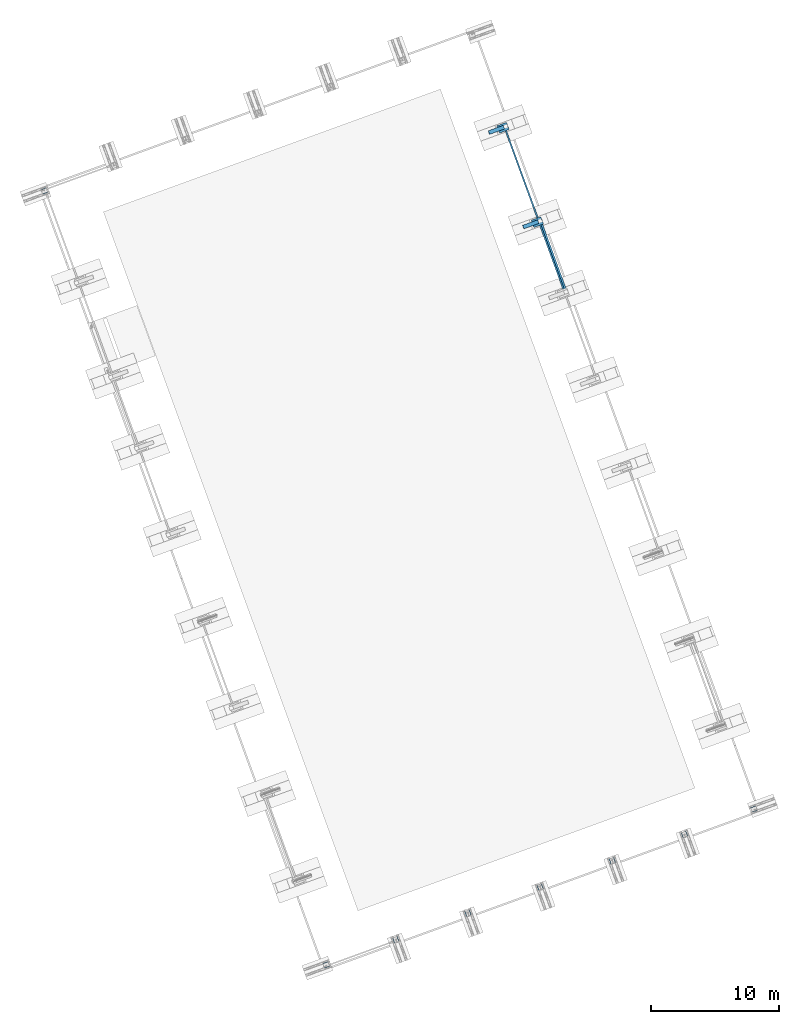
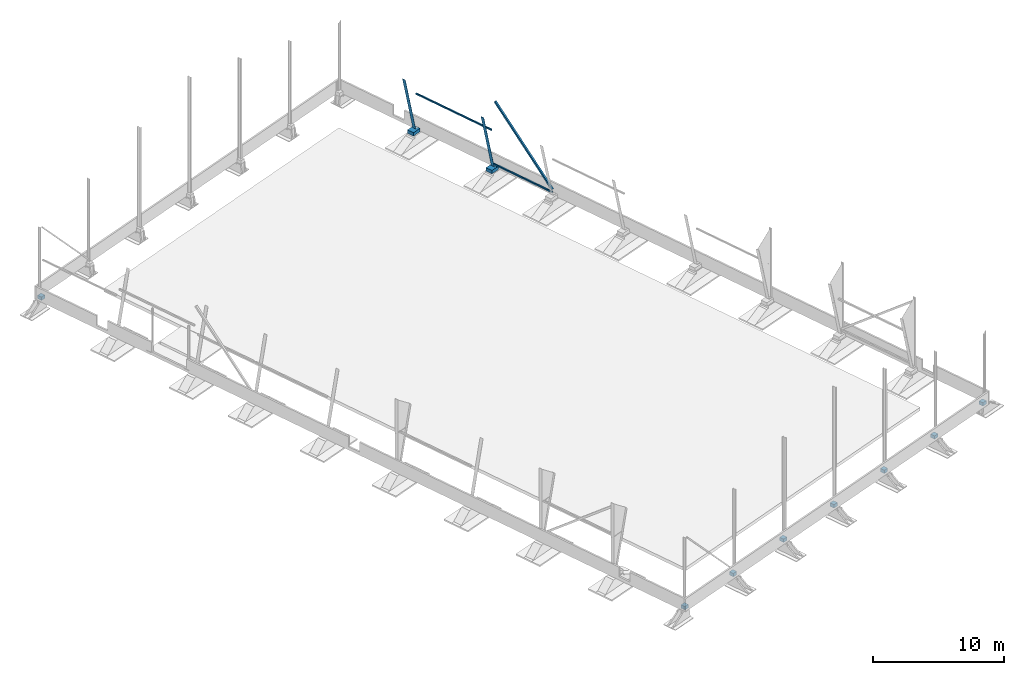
# One storey, part 9 of 20: 12 beams, 3 members, 15 elements without a shape of their own.
"""IFC4 building model written with IfcOpenShell, lengths in millimetres."""

from ifc_helpers import new_model, si_unit, direction, frame, origin_with_axes, place, context, subcontext, project, spatial, line, indexed_curve, outline, extrude, material, element, aggregate, save


model = new_model("IFC4")

# Units and contexts
model_context = context("Model", 3, precision=0.2, world=frame((203566.813, 116264.779, 0.0), z_axis=(0.0, 0.0, 1.0), x_axis=(1.0, 0.0, 0.0)), true_north=direction((-0.9396138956, -0.3422363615)))
body_context = subcontext(model_context, "Body", "Model", "MODEL_VIEW")
ifc_project = project(units=[si_unit("LENGTHUNIT", "METRE", prefix="MILLI"), si_unit("AREAUNIT", "SQUARE_METRE"), si_unit("VOLUMEUNIT", "CUBIC_METRE"), si_unit("MASSUNIT", "GRAM", prefix="KILO"), si_unit("TIMEUNIT", "SECOND"), si_unit("PLANEANGLEUNIT", "RADIAN"), si_unit("SOLIDANGLEUNIT", "STERADIAN"), si_unit("THERMODYNAMICTEMPERATUREUNIT", "DEGREE_CELSIUS"), si_unit("LUMINOUSINTENSITYUNIT", "LUMEN")], contexts=[model_context])

# Site, building, storey
site_placement = place(None, origin_with_axes())
site = spatial("IfcSite", under=ifc_project, at=site_placement, Name="Nobelprojektet", CompositionType="ELEMENT")
building_placement = place(site_placement, origin_with_axes())
building = spatial("IfcBuilding", under=site, at=building_placement, Name="Hall B", CompositionType="ELEMENT")
storey_placement = place(building_placement, frame((0.0, 0.0, 1000.0), z_axis=(0.0, 0.0, 1.0), x_axis=(1.0, 0.0, 0.0)))
storey = spatial("IfcBuildingStorey", under=building, at=storey_placement, Name="Plan_1", CompositionType="ELEMENT", Elevation=1000.0)

# Assembly, beam
assembly_1_placement = place(storey_placement, frame((167191.72591, 171427.04048, 135487.51505), z_axis=(0.0, 0.0, -1.0), x_axis=(-0.3422371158, 0.9396136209, 1.3e-09)))
assembly_1 = element("IfcElementAssembly", 1, at=assembly_1_placement, inside=storey, Name="BEF. STOMME", PredefinedType="NOTDEFINED")
ifc_material_1 = material(Name="S355J2", Category="STEEL")
beam_1_placement = place(assembly_1_placement, origin_with_axes())
beam_1 = element("IfcBeam", 2, at=beam_1_placement, material=ifc_material_1, Name="BEF. STOMME", PredefinedType="NOTDEFINED", context=body_context, shape_type="SolidModel", body=[
    extrude(outline(indexed_curve([(-60.0, -60.0), (60.0, -60.0), (60.0, 60.0), (-60.0, 60.0)], segments=[line(1, 2, 3, 4, 1)]), holes=[indexed_curve([(-55.0, -55.0), (-55.0, 55.0), (55.0, 55.0), (55.0, -55.0)], segments=[line(1, 2, 3, 4, 1)])]), frame((0.0, 0.0, 0.0), z_axis=(-1.0, 0.0, 0.0), x_axis=(0.0, 0.0, 1.0)), (0.0, 0.0, -1.0), 7549.99),
])
aggregate(assembly_1, [beam_1])

assembly_2_placement = place(storey_placement, frame((169271.15862, 165717.94812, 132405.00505), z_axis=(0.0, 0.0, -1.0), x_axis=(-0.3422371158, 0.9396136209, 1.3e-09)))
assembly_2 = element("IfcElementAssembly", 3, at=assembly_2_placement, inside=storey, Name="BEF. STOMME", PredefinedType="NOTDEFINED")
beam_2_placement = place(assembly_2_placement, origin_with_axes())
beam_2 = element("IfcBeam", 4, at=beam_2_placement, material=ifc_material_1, Name="BEF. STOMME", PredefinedType="NOTDEFINED", context=body_context, shape_type="SolidModel", body=[
    extrude(outline(indexed_curve([(-60.0, -60.0), (60.0, -60.0), (60.0, 60.0), (-60.0, 60.0)], segments=[line(1, 2, 3, 4, 1)]), holes=[indexed_curve([(-55.0, -55.0), (-55.0, 55.0), (55.0, 55.0), (55.0, -55.0)], segments=[line(1, 2, 3, 4, 1)])]), frame((0.0, 0.0, 0.0), z_axis=(-1.0, 0.0, 0.0), x_axis=(0.0, 0.0, 1.0)), (0.0, 0.0, -1.0), 5896.0),
])
aggregate(assembly_2, [beam_2])

# Assembly, member
assembly_3_placement = place(storey_placement, frame((167391.32019, 171252.59563, 138202.30505), z_axis=(0.2402452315, -0.6595944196, 0.7121919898), x_axis=(0.243738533, -0.6691852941, -0.7019847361)))
assembly_3 = element("IfcElementAssembly", 5, at=assembly_3_placement, inside=storey, Name="BEF. STOMME", PredefinedType="NOTDEFINED")
member_1_placement = place(assembly_3_placement, origin_with_axes())
member_1 = element("IfcMember", 6, at=member_1_placement, material=ifc_material_1, Name="BEF. STOMME", PredefinedType="NOTDEFINED", context=body_context, shape_type="SolidModel", body=[
    extrude(outline(indexed_curve([(-80.0, -80.0), (80.0, -80.0), (80.0, 80.0), (-80.0, 80.0)], segments=[line(1, 2, 3, 4, 1)]), holes=[indexed_curve([(-74.0, -74.0), (-74.0, 74.0), (74.0, 74.0), (74.0, -74.0)], segments=[line(1, 2, 3, 4, 1)])]), frame((0.0, 0.0, 0.0), z_axis=(-1.0, 0.0, 0.0), x_axis=(0.0, 0.0, 1.0)), (0.0, 0.0, -1.0), 8057.99572),
])
aggregate(assembly_3, [member_1])

# Assembly, beam
assembly_4_placement = place(storey_placement, frame((164068.76642, 178452.48732, 132024.99996), z_axis=(0.3422371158, -0.9396136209, 1.3e-09), x_axis=(0.9396136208, 0.3422371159, 0.0)))
assembly_4 = element("IfcElementAssembly", 7, at=assembly_4_placement, inside=storey, Name="BALK", PredefinedType="NOTDEFINED")
ifc_material_2 = material(Name="C25/30", Category="CONCRETE")
beam_3_placement = place(assembly_4_placement, origin_with_axes())
beam_3 = element("IfcBeam", 8, at=beam_3_placement, material=ifc_material_2, Name="BALK", PredefinedType="NOTDEFINED", context=body_context, shape_type="SolidModel", body=[
    extrude(outline(indexed_curve([(-300.0, -155.0), (300.0, -155.0), (300.0, 155.0), (-300.0, 155.0)], segments=[line(1, 2, 3, 4, 1)])), frame((0.0, 0.0, 0.0), z_axis=(-1.0, 0.0, 0.0), x_axis=(0.0, 0.0, 1.0)), (0.0, 0.0, -1.0), 800.0),
])
aggregate(assembly_4, [beam_3])

assembly_5_placement = place(storey_placement, frame((166755.32778, 171076.52039, 132024.99996), z_axis=(0.3422371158, -0.9396136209, 1.3e-09), x_axis=(0.9396136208, 0.3422371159, 0.0)))
assembly_5 = element("IfcElementAssembly", 9, at=assembly_5_placement, inside=storey, Name="BALK", PredefinedType="NOTDEFINED")
beam_4_placement = place(assembly_5_placement, origin_with_axes())
beam_4 = element("IfcBeam", 10, at=beam_4_placement, material=ifc_material_2, Name="BALK", PredefinedType="NOTDEFINED", context=body_context, shape_type="SolidModel", body=[
    extrude(outline(indexed_curve([(-300.0, -155.0), (300.0, -155.0), (300.0, 155.0), (-300.0, 155.0)], segments=[line(1, 2, 3, 4, 1)])), frame((0.0, 0.0, 0.0), z_axis=(-1.0, 0.0, 0.0), x_axis=(0.0, 0.0, 1.0)), (0.0, 0.0, -1.0), 800.0),
])
aggregate(assembly_5, [beam_4])

assembly_6_placement = place(storey_placement, frame((156003.48198, 115362.48278, 132024.99996), z_axis=(0.9396136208, 0.3422371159, 0.0), x_axis=(0.3422371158, -0.9396136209, 1.3e-09)))
assembly_6 = element("IfcElementAssembly", 11, at=assembly_6_placement, inside=storey, Name="BEFINTLIG", PredefinedType="NOTDEFINED")
beam_5_placement = place(assembly_6_placement, origin_with_axes())
beam_5 = element("IfcBeam", 12, at=beam_5_placement, material=ifc_material_2, Name="BEFINTLIG", PredefinedType="NOTDEFINED", context=body_context, shape_type="SolidModel", body=[
    extrude(outline(indexed_curve([(-200.0, -155.0), (200.0, -155.0), (200.0, 155.0), (-200.0, 155.0)], segments=[line(1, 2, 3, 4, 1)])), frame((0.0, 0.0, 0.0), z_axis=(-1.0, 0.0, 0.0), x_axis=(0.0, 0.0, 1.0)), (0.0, 0.0, -1.0), 400.0),
])
aggregate(assembly_6, [beam_5])

assembly_7_placement = place(storey_placement, frame((161641.1637, 117415.90548, 132024.99996), z_axis=(0.9396136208, 0.3422371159, 0.0), x_axis=(0.3422371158, -0.9396136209, 1.3e-09)))
assembly_7 = element("IfcElementAssembly", 13, at=assembly_7_placement, inside=storey, Name="BEFINTLIG", PredefinedType="NOTDEFINED")
beam_6_placement = place(assembly_7_placement, origin_with_axes())
beam_6 = element("IfcBeam", 14, at=beam_6_placement, material=ifc_material_2, Name="BEFINTLIG", PredefinedType="NOTDEFINED", context=body_context, shape_type="SolidModel", body=[
    extrude(outline(indexed_curve([(-200.0, -155.0), (200.0, -155.0), (200.0, 155.0), (-200.0, 155.0)], segments=[line(1, 2, 3, 4, 1)])), frame((0.0, 0.0, 0.0), z_axis=(-1.0, 0.0, 0.0), x_axis=(0.0, 0.0, 1.0)), (0.0, 0.0, -1.0), 400.0),
])
aggregate(assembly_7, [beam_6])

assembly_8_placement = place(storey_placement, frame((167278.84543, 119469.32817, 132024.99996), z_axis=(0.9396136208, 0.3422371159, 0.0), x_axis=(0.3422371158, -0.9396136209, 1.3e-09)))
assembly_8 = element("IfcElementAssembly", 15, at=assembly_8_placement, inside=storey, Name="BEFINTLIG", PredefinedType="NOTDEFINED")
beam_7_placement = place(assembly_8_placement, origin_with_axes())
beam_7 = element("IfcBeam", 16, at=beam_7_placement, material=ifc_material_2, Name="BEFINTLIG", PredefinedType="NOTDEFINED", context=body_context, shape_type="SolidModel", body=[
    extrude(outline(indexed_curve([(-200.0, -155.0), (200.0, -155.0), (200.0, 155.0), (-200.0, 155.0)], segments=[line(1, 2, 3, 4, 1)])), frame((0.0, 0.0, 0.0), z_axis=(-1.0, 0.0, 0.0), x_axis=(0.0, 0.0, 1.0)), (0.0, 0.0, -1.0), 400.0),
])
aggregate(assembly_8, [beam_7])

assembly_9_placement = place(storey_placement, frame((172916.52715, 121522.75087, 132024.99996), z_axis=(0.9396136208, 0.3422371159, 0.0), x_axis=(0.3422371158, -0.9396136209, 1.3e-09)))
assembly_9 = element("IfcElementAssembly", 17, at=assembly_9_placement, inside=storey, Name="BEFINTLIG", PredefinedType="NOTDEFINED")
beam_8_placement = place(assembly_9_placement, origin_with_axes())
beam_8 = element("IfcBeam", 18, at=beam_8_placement, material=ifc_material_2, Name="BEFINTLIG", PredefinedType="NOTDEFINED", context=body_context, shape_type="SolidModel", body=[
    extrude(outline(indexed_curve([(-200.0, -155.0), (200.0, -155.0), (200.0, 155.0), (-200.0, 155.0)], segments=[line(1, 2, 3, 4, 1)])), frame((0.0, 0.0, 0.0), z_axis=(-1.0, 0.0, 0.0), x_axis=(0.0, 0.0, 1.0)), (0.0, 0.0, -1.0), 400.0),
])
aggregate(assembly_9, [beam_8])

assembly_10_placement = place(storey_placement, frame((178554.20888, 123576.17356, 132024.99996), z_axis=(0.9396136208, 0.3422371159, 0.0), x_axis=(0.3422371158, -0.9396136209, 1.3e-09)))
assembly_10 = element("IfcElementAssembly", 19, at=assembly_10_placement, inside=storey, Name="BEFINTLIG", PredefinedType="NOTDEFINED")
beam_9_placement = place(assembly_10_placement, origin_with_axes())
beam_9 = element("IfcBeam", 20, at=beam_9_placement, material=ifc_material_2, Name="BEFINTLIG", PredefinedType="NOTDEFINED", context=body_context, shape_type="SolidModel", body=[
    extrude(outline(indexed_curve([(-200.0, -155.0), (200.0, -155.0), (200.0, 155.0), (-200.0, 155.0)], segments=[line(1, 2, 3, 4, 1)])), frame((0.0, 0.0, 0.0), z_axis=(-1.0, 0.0, 0.0), x_axis=(0.0, 0.0, 1.0)), (0.0, 0.0, -1.0), 400.0),
])
aggregate(assembly_10, [beam_9])

assembly_11_placement = place(storey_placement, frame((128818.75383, 173723.028, 132024.99996), z_axis=(0.3422371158, -0.9396136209, 1.3e-09), x_axis=(-0.9396136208, -0.3422371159, 0.0)))
assembly_11 = element("IfcElementAssembly", 21, at=assembly_11_placement, inside=storey, Name="BEFINTLIG", PredefinedType="NOTDEFINED")
beam_10_placement = place(assembly_11_placement, origin_with_axes())
beam_10 = element("IfcBeam", 22, at=beam_10_placement, material=ifc_material_2, Name="BEFINTLIG", PredefinedType="NOTDEFINED", context=body_context, shape_type="SolidModel", body=[
    extrude(outline(indexed_curve([(-200.0, -155.0), (200.0, -155.0), (200.0, 155.0), (-200.0, 155.0)], segments=[line(1, 2, 3, 4, 1)])), frame((0.0, 0.0, 0.0), z_axis=(-1.0, 0.0, 0.0), x_axis=(0.0, 0.0, 1.0)), (0.0, 0.0, -1.0), 400.0),
])
aggregate(assembly_11, [beam_10])

assembly_12_placement = place(storey_placement, frame((150838.28987, 113268.28764, 132024.99996), z_axis=(0.3422371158, -0.9396136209, 1.3e-09), x_axis=(-0.9396136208, -0.3422371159, 0.0)))
assembly_12 = element("IfcElementAssembly", 23, at=assembly_12_placement, inside=storey, Name="BEFINTLIG", PredefinedType="NOTDEFINED")
beam_11_placement = place(assembly_12_placement, origin_with_axes())
beam_11 = element("IfcBeam", 24, at=beam_11_placement, material=ifc_material_2, Name="BEFINTLIG", PredefinedType="NOTDEFINED", context=body_context, shape_type="SolidModel", body=[
    extrude(outline(indexed_curve([(-200.0, -155.0), (200.0, -155.0), (200.0, 155.0), (-200.0, 155.0)], segments=[line(1, 2, 3, 4, 1)])), frame((0.0, 0.0, 0.0), z_axis=(-1.0, 0.0, 0.0), x_axis=(0.0, 0.0, 1.0)), (0.0, 0.0, -1.0), 400.0),
])
aggregate(assembly_12, [beam_11])

assembly_13_placement = place(storey_placement, frame((183856.2964, 125294.49402, 132024.99996), z_axis=(-0.3422371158, 0.9396136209, 1.3e-09), x_axis=(0.9396136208, 0.3422371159, 0.0)))
assembly_13 = element("IfcElementAssembly", 25, at=assembly_13_placement, inside=storey, Name="BEFINTLIG", PredefinedType="NOTDEFINED")
beam_12_placement = place(assembly_13_placement, origin_with_axes())
beam_12 = element("IfcBeam", 26, at=beam_12_placement, material=ifc_material_2, Name="BEFINTLIG", PredefinedType="NOTDEFINED", context=body_context, shape_type="SolidModel", body=[
    extrude(outline(indexed_curve([(-200.0, -155.0), (200.0, -155.0), (200.0, 155.0), (-200.0, 155.0)], segments=[line(1, 2, 3, 4, 1)])), frame((0.0, 0.0, 0.0), z_axis=(-1.0, 0.0, 0.0), x_axis=(0.0, 0.0, 1.0)), (0.0, 0.0, -1.0), 400.0),
])
aggregate(assembly_13, [beam_12])

# Assembly, member
assembly_14_placement = place(storey_placement, frame((167193.71217, 171252.23515, 132198.26102), z_axis=(0.9144795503, 0.3330824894, 0.2297459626), x_axis=(-0.215872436, -0.078627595, 0.973250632)))
assembly_14 = element("IfcElementAssembly", 27, at=assembly_14_placement, inside=storey, Name="BEF. STOMME", PredefinedType="NOTDEFINED")
member_2_placement = place(assembly_14_placement, origin_with_axes())
member_2 = element("IfcMember", 28, at=member_2_placement, material=ifc_material_1, Name="BEF. STOMME", PredefinedType="NOTDEFINED", context=body_context, shape_type="SolidModel", body=[
    extrude(outline(indexed_curve([(-7.5, -150.0), (7.5, -150.0), (7.5, 150.0), (-7.5, 150.0)], segments=[line(1, 2, 3, 4, 1)])), frame((0.0, 0.0, 0.0), z_axis=(-1.0, 0.0, 0.0), x_axis=(0.0, 0.0, 1.0)), (0.0, 0.0, -1.0), 5396.42619),
])
aggregate(assembly_14, [member_2])

assembly_15_placement = place(storey_placement, frame((164507.15081, 178628.20207, 132198.26102), z_axis=(0.9144795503, 0.3330824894, 0.2297459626), x_axis=(-0.215872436, -0.078627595, 0.973250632)))
assembly_15 = element("IfcElementAssembly", 29, at=assembly_15_placement, inside=storey, Name="BEF. STOMME", PredefinedType="NOTDEFINED")
member_3_placement = place(assembly_15_placement, origin_with_axes())
member_3 = element("IfcMember", 30, at=member_3_placement, material=ifc_material_1, Name="BEF. STOMME", PredefinedType="NOTDEFINED", context=body_context, shape_type="SolidModel", body=[
    extrude(outline(indexed_curve([(-7.5, -150.0), (7.5, -150.0), (7.5, 150.0), (-7.5, 150.0)], segments=[line(1, 2, 3, 4, 1)])), frame((0.0, 0.0, 0.0), z_axis=(-1.0, 0.0, 0.0), x_axis=(0.0, 0.0, 1.0)), (0.0, 0.0, -1.0), 5396.42619),
])
aggregate(assembly_15, [member_3])

save(model, "model.ifc")
